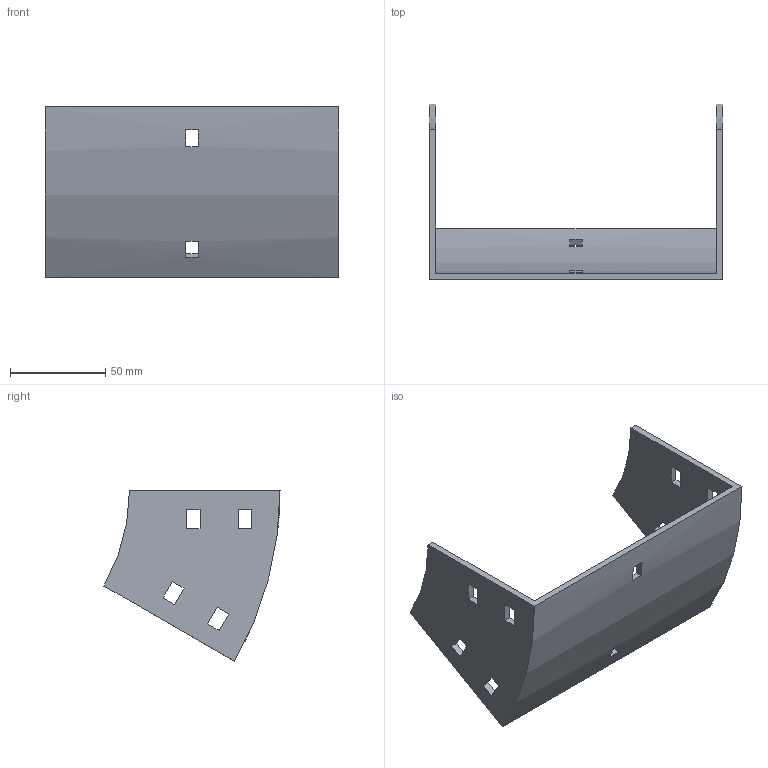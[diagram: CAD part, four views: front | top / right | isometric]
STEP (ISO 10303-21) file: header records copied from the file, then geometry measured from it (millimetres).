
FILE_DESCRIPTION (( 'STEP AP214' ), '1' );
FILE_NAME ('32B1C150.step', '2025-02-21T09:44:41', ( '' ), ( '' ), 'SwSTEP 2.0', 'SolidWorks 2023', '' );
FILE_SCHEMA (( 'AUTOMOTIVE_DESIGN' ));
Length unit declared in the file: millimetre
Products named in the file (1): 32B1C150
Bounding box: 154 x 92.4 x 89.5 mm (x, y, z)
Volume: 85770.6 mm3; surface area: 52689.7 mm2
Topology: 1 solids, 1 shells, 50 faces, 144 edges, 96 vertices
Faces by surface type: plane 46, cylinder 4
Entity records: 1687 total; most frequent: CARTESIAN_POINT 291, ORIENTED_EDGE 288, DIRECTION 262, EDGE_CURVE 144, LINE 128, VECTOR 128, VERTEX_POINT 96, EDGE_LOOP 70
